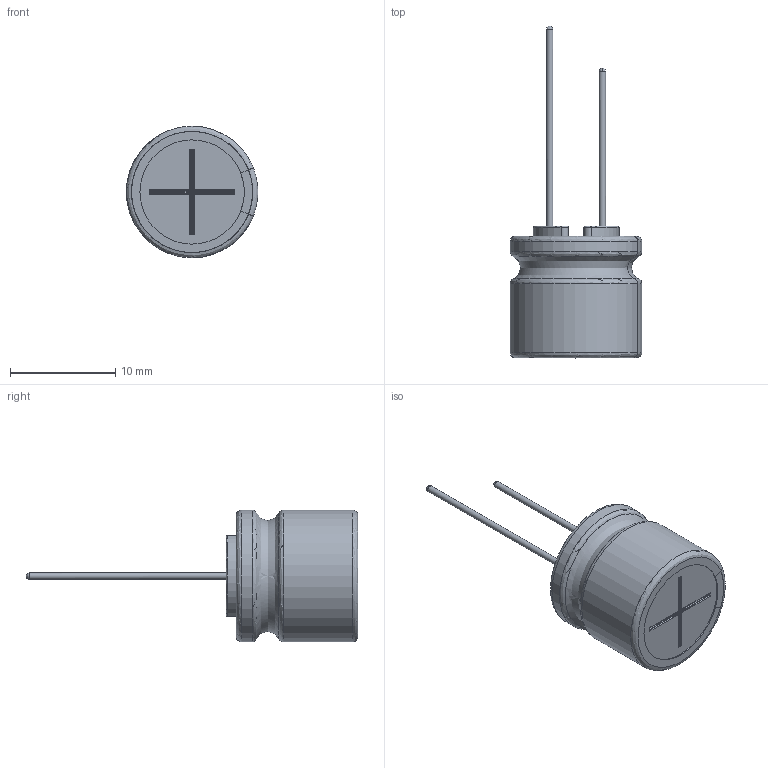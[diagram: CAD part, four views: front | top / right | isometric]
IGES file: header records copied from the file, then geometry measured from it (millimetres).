
Start section: JAMA-IS VERSION  1.0
Global section: file name: 株式会社\作業\リード線形\納品用\主要外形データ\IGES\12.5x12.5_Lead.igs; native system: NX V11.0; preprocessor: SIEMENS PLM Software NX 11.0; date: 170831.144223; units: millimetre
Bounding box: 12.48 x 31.5 x 12.5 mm (x, y, z)
Surface area: 1883.5 mm2 (no closed solid volume)
Topology: 0 solids, 0 shells, 132 faces, 1445 edges, 1424 vertices
Faces by surface type: bspline 132
